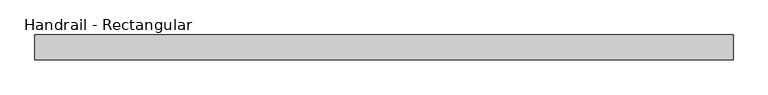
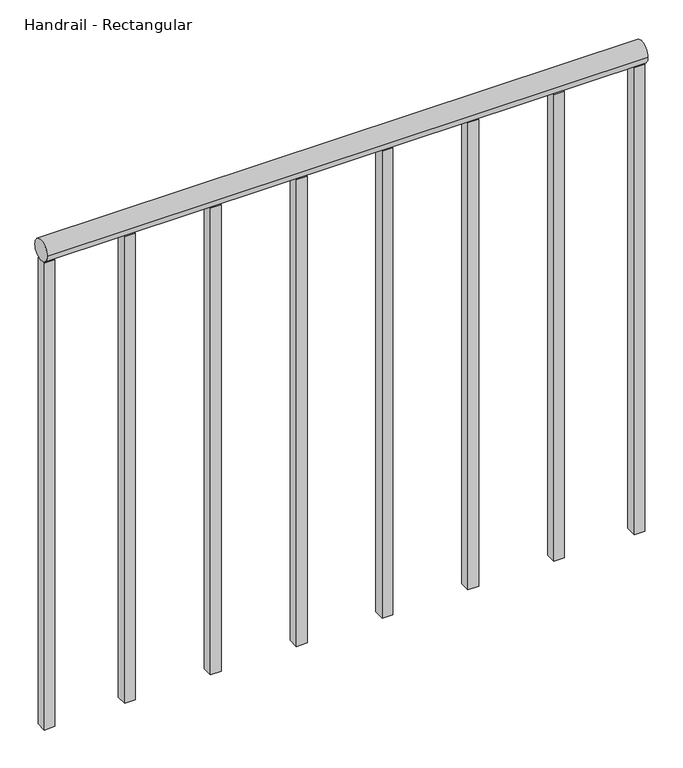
"""IFC4 building model written with IfcOpenShell, lengths in millimetres: railing geometry, Handrail - Rectangular."""

from ifc_helpers import new_model, si_unit, point, frame, frame_2d, origin, place, context, project, spatial, polyline, circle_curve, trimmed, segment, composite_curve, outline, extrude, source, transform, mapped, element, save


def handrail_rectangular_26da0932(model_context):
    return source(origin(), model_context, "Body", "SweptSolid", [
        extrude(outline(composite_curve([segment(trimmed(circle_curve(frame_2d((11944.8316867, 10039.35)), 19.05), [point((11963.8816867, 10039.35))], [point((11925.7816867, 10039.35))], False, "CARTESIAN"), True, "CONTINUOUS"), segment(trimmed(circle_curve(frame_2d((11944.8316867, 10039.35)), 19.05), [point((11925.7816867, 10039.35))], [point((11963.8816867, 10039.35))], False, "CARTESIAN"), True, "CONTINUOUS")], self_intersect=False)), frame((-31964.2839563, 0.0, 0.0), z_axis=(1.0, 0.0, 0.0), x_axis=(0.0, 1.0, 0.0)), (0.0, 0.0, 1.0), 1066.8),
        extrude(outline(polyline([(-31802.3589563, 11935.3066867), (-31821.4089563, 11935.3066867), (-31821.4089563, 11954.3566867), (-31802.3589563, 11954.3566867), (-31802.3589563, 11935.3066867)])), frame((0.0, 0.0, 9144.0), z_axis=(0.0, 0.0, 1.0), x_axis=(1.0, 0.0, 0.0)), (0.0, 0.0, 1.0), 876.3),
        extrude(outline(polyline([(-31649.9589563, 11935.3066867), (-31669.0089563, 11935.3066867), (-31669.0089563, 11954.3566867), (-31649.9589563, 11954.3566867), (-31649.9589563, 11935.3066867)])), frame((0.0, 0.0, 9144.0), z_axis=(0.0, 0.0, 1.0), x_axis=(1.0, 0.0, 0.0)), (0.0, 0.0, 1.0), 876.3),
        extrude(outline(polyline([(-31497.5589563, 11935.3066867), (-31516.6089563, 11935.3066867), (-31516.6089563, 11954.3566867), (-31497.5589563, 11954.3566867), (-31497.5589563, 11935.3066867)])), frame((0.0, 0.0, 9144.0), z_axis=(0.0, 0.0, 1.0), x_axis=(1.0, 0.0, 0.0)), (0.0, 0.0, 1.0), 876.3),
        extrude(outline(polyline([(-31345.1589563, 11935.3066867), (-31364.2089563, 11935.3066867), (-31364.2089563, 11954.3566867), (-31345.1589563, 11954.3566867), (-31345.1589563, 11935.3066867)])), frame((0.0, 0.0, 9144.0), z_axis=(0.0, 0.0, 1.0), x_axis=(1.0, 0.0, 0.0)), (0.0, 0.0, 1.0), 876.3),
        extrude(outline(polyline([(-31192.7589563, 11935.3066867), (-31211.8089563, 11935.3066867), (-31211.8089563, 11954.3566867), (-31192.7589563, 11954.3566867), (-31192.7589563, 11935.3066867)])), frame((0.0, 0.0, 9144.0), z_axis=(0.0, 0.0, 1.0), x_axis=(1.0, 0.0, 0.0)), (0.0, 0.0, 1.0), 876.3),
        extrude(outline(polyline([(-31040.3589563, 11935.3066867), (-31059.4089563, 11935.3066867), (-31059.4089563, 11954.3566867), (-31040.3589563, 11954.3566867), (-31040.3589563, 11935.3066867)])), frame((0.0, 0.0, 9144.0), z_axis=(0.0, 0.0, 1.0), x_axis=(1.0, 0.0, 0.0)), (0.0, 0.0, 1.0), 876.3),
        extrude(outline(polyline([(-31945.2339563, 11935.3066867), (-31964.2839563, 11935.3066867), (-31964.2839563, 11954.3566867), (-31945.2339563, 11954.3566867), (-31945.2339563, 11935.3066867)])), frame((0.0, 0.0, 9144.0), z_axis=(0.0, 0.0, 1.0), x_axis=(1.0, 0.0, 0.0)), (0.0, 0.0, 1.0), 876.3),
        extrude(outline(polyline([(-30897.4839563, 11935.3066867), (-30916.5339563, 11935.3066867), (-30916.5339563, 11954.3566867), (-30897.4839563, 11954.3566867), (-30897.4839563, 11935.3066867)])), frame((0.0, 0.0, 9144.0), z_axis=(0.0, 0.0, 1.0), x_axis=(1.0, 0.0, 0.0)), (0.0, 0.0, 1.0), 876.3),
    ])


if __name__ == "__main__":
    model = new_model("IFC4")
    model_context = context("Model", 3, world=origin())
    ifc_project = project(units=[si_unit("LENGTHUNIT", "METRE", prefix="MILLI")], contexts=[model_context])
    site = spatial("IfcSite", under=ifc_project)
    building = spatial("IfcBuilding", under=site)
    placement = place(None, origin())
    handrail_rectangular_shape = handrail_rectangular_26da0932(model_context)
    element("IfcRailing", 1, ObjectType="Handrail - Rectangular", at=placement, inside=building, context=model_context, shape_type="MappedRepresentation", body=[
        mapped(handrail_rectangular_shape, transform((0.0, 0.0, 0.0), x_axis=(1.0, 0.0, 0.0), y_axis=(0.0, 1.0, 0.0), z_axis=(0.0, 0.0, 1.0))),
    ])
    save(model, "model.ifc")
